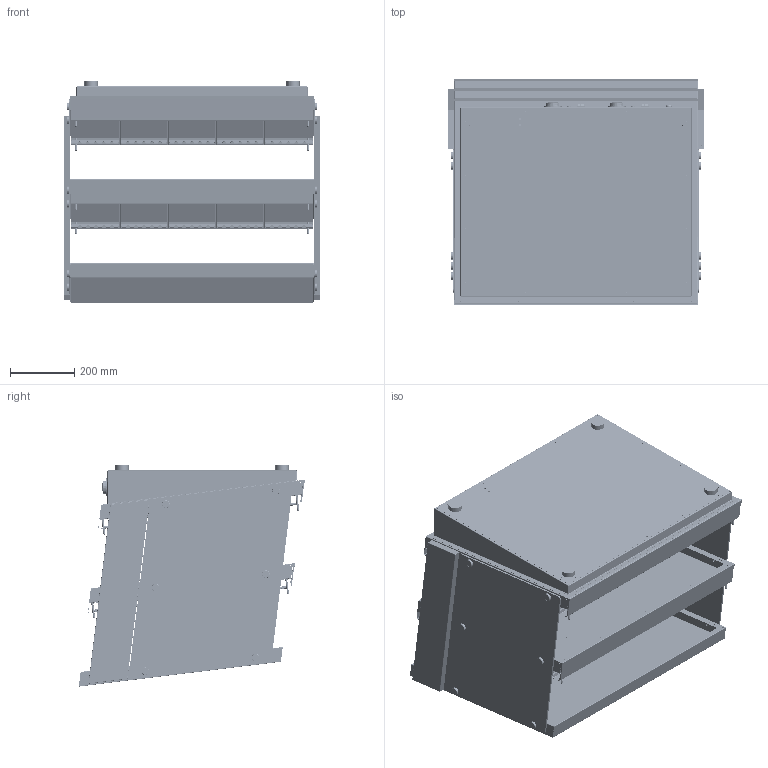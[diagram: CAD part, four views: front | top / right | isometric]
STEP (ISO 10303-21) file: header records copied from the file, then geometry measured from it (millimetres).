
FILE_DESCRIPTION (( 'STEP AP214' ), '1' );
FILE_NAME ('pres_CBIN.STEP', '2024-12-23T08:38:37', ( '' ), ( '' ), 'SwSTEP 2.0', 'SolidWorks 2025', '' );
FILE_SCHEMA (( 'AUTOMOTIVE_DESIGN' ));
Length unit declared in the file: millimetre
Products named in the file (1): pres_CBIN
Bounding box: 800.2 x 706.92 x 690.58 mm (x, y, z)
Volume: 7189538.1 mm3; surface area: 12486129.4 mm2
Topology: 122 solids, 122 shells, 7553 faces, 19189 edges, 11894 vertices
Faces by surface type: plane 3270, cylinder 3073, bspline 553, torus 364, sphere 222, cone 71
Entity records: 377744 total; most frequent: CARTESIAN_POINT 194613, ORIENTED_EDGE 38312, DIRECTION 36033, EDGE_CURVE 19156, AXIS2_PLACEMENT_3D 13489, VERTEX_POINT 11878, LINE 9055, VECTOR 9055
